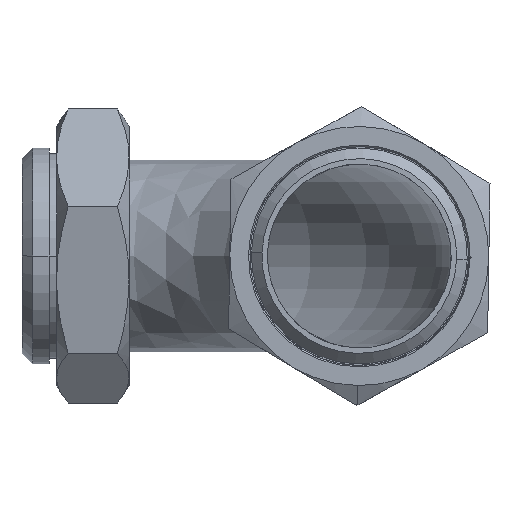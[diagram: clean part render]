
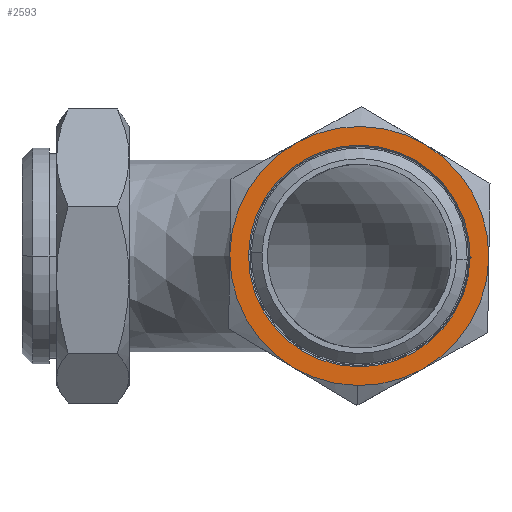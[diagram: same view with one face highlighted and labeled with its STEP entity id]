
A CAD part, front view. The second image highlights one B-rep face of the part: STEP entity #2593.
In plain terms, the highlighted planar face has unit normal (0, -1, 0) as drawn and (0, 0, 1) by its records, which use the part's own axes.
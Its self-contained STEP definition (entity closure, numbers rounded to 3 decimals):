
#24 = EDGE_CURVE ( 'NONE', #5599, #6342, #14220, .T. ) ;
#143 = VERTEX_POINT ( 'NONE', #9170 ) ;
#280 = CARTESIAN_POINT ( 'NONE',  ( 0., 0., 38.354 ) ) ;
#797 = ORIENTED_EDGE ( 'NONE', *, *, #9403, .T. ) ;
#922 = VERTEX_POINT ( 'NONE', #3838 ) ;
#944 = DIRECTION ( 'NONE',  ( 0., 0., -1. ) ) ;
#1153 = EDGE_LOOP ( 'NONE', ( #14002, #8592, #797, #11951, #9208, #5302, #13646 ) ) ;
#1273 = DIRECTION ( 'NONE',  ( 1., 0., 0. ) ) ;
#1310 = VERTEX_POINT ( 'NONE', #14631 ) ;
#1585 = CARTESIAN_POINT ( 'NONE',  ( 0., 0., 38.354 ) ) ;
#1794 = AXIS2_PLACEMENT_3D ( 'NONE', #5739, #10481, #15232 ) ;
#2029 = CIRCLE ( 'NONE', #9471, 68.58 ) ;
#2033 = DIRECTION ( 'NONE',  ( 0., 0., 1. ) ) ;
#2335 = VERTEX_POINT ( 'NONE', #4945 ) ;
#2593 = ADVANCED_FACE ( 'NONE', ( #13344, #6266 ), #5021, .T. ) ;
#3312 = VERTEX_POINT ( 'NONE', #6638 ) ;
#3541 = CARTESIAN_POINT ( 'NONE',  ( -59.392, 34.29, 38.354 ) ) ;
#3700 = AXIS2_PLACEMENT_3D ( 'NONE', #14589, #6112, #3929 ) ;
#3838 = CARTESIAN_POINT ( 'NONE',  ( 59.392, 34.29, 38.354 ) ) ;
#3929 = DIRECTION ( 'NONE',  ( 1., 0., 0. ) ) ;
#3988 = CARTESIAN_POINT ( 'NONE',  ( 58.674, 0., 38.354 ) ) ;
#4595 = DIRECTION ( 'NONE',  ( 1., 0., 0. ) ) ;
#4867 = CIRCLE ( 'NONE', #12807, 68.58 ) ;
#4924 = DIRECTION ( 'NONE',  ( 0., 0., 1. ) ) ;
#4945 = CARTESIAN_POINT ( 'NONE',  ( 0., 68.58, 38.354 ) ) ;
#5021 = PLANE ( 'NONE',  #3700 ) ;
#5302 = ORIENTED_EDGE ( 'NONE', *, *, #9020, .T. ) ;
#5369 = CARTESIAN_POINT ( 'NONE',  ( 0., 0., 38.354 ) ) ;
#5599 = VERTEX_POINT ( 'NONE', #3988 ) ;
#5739 = CARTESIAN_POINT ( 'NONE',  ( 0., 0., 38.354 ) ) ;
#5843 = CARTESIAN_POINT ( 'NONE',  ( 0., -68.58, 38.354 ) ) ;
#6112 = DIRECTION ( 'NONE',  ( 0., 0., 1. ) ) ;
#6266 = FACE_OUTER_BOUND ( 'NONE', #1153, .T. ) ;
#6342 = VERTEX_POINT ( 'NONE', #8135 ) ;
#6475 = ORIENTED_EDGE ( 'NONE', *, *, #10079, .T. ) ;
#6567 = ORIENTED_EDGE ( 'NONE', *, *, #24, .T. ) ;
#6638 = CARTESIAN_POINT ( 'NONE',  ( 59.392, -34.29, 38.354 ) ) ;
#6708 = CARTESIAN_POINT ( 'NONE',  ( 0., 0., 38.354 ) ) ;
#6812 = CIRCLE ( 'NONE', #12770, 68.58 ) ;
#7241 = CARTESIAN_POINT ( 'NONE',  ( 0., 0., 38.354 ) ) ;
#7624 = DIRECTION ( 'NONE',  ( 0., 0., 1. ) ) ;
#7697 = DIRECTION ( 'NONE',  ( 1., 0., 0. ) ) ;
#7796 = DIRECTION ( 'NONE',  ( 0., 0., 1. ) ) ;
#7980 = AXIS2_PLACEMENT_3D ( 'NONE', #12684, #2033, #4595 ) ;
#8086 = AXIS2_PLACEMENT_3D ( 'NONE', #6708, #7796, #11366 ) ;
#8135 = CARTESIAN_POINT ( 'NONE',  ( -58.674, 0., 38.354 ) ) ;
#8374 = VERTEX_POINT ( 'NONE', #5843 ) ;
#8592 = ORIENTED_EDGE ( 'NONE', *, *, #12920, .T. ) ;
#9020 = EDGE_CURVE ( 'NONE', #143, #8374, #13462, .T. ) ;
#9148 = DIRECTION ( 'NONE',  ( 1., 0., 0. ) ) ;
#9170 = CARTESIAN_POINT ( 'NONE',  ( -59.392, -34.29, 38.354 ) ) ;
#9207 = EDGE_CURVE ( 'NONE', #12728, #143, #13220, .T. ) ;
#9208 = ORIENTED_EDGE ( 'NONE', *, *, #9207, .T. ) ;
#9248 = CARTESIAN_POINT ( 'NONE',  ( 0., 0., 38.354 ) ) ;
#9403 = EDGE_CURVE ( 'NONE', #922, #2335, #2029, .T. ) ;
#9437 = DIRECTION ( 'NONE',  ( 0., 0., 1. ) ) ;
#9471 = AXIS2_PLACEMENT_3D ( 'NONE', #5369, #7624, #7697 ) ;
#10079 = EDGE_CURVE ( 'NONE', #6342, #5599, #15188, .T. ) ;
#10135 = EDGE_LOOP ( 'NONE', ( #6567, #6475 ) ) ;
#10244 = DIRECTION ( 'NONE',  ( 0., 0., 1. ) ) ;
#10481 = DIRECTION ( 'NONE',  ( 0., 0., -1. ) ) ;
#10766 = DIRECTION ( 'NONE',  ( 1., 0., 0. ) ) ;
#10811 = DIRECTION ( 'NONE',  ( 1., 0., 0. ) ) ;
#11366 = DIRECTION ( 'NONE',  ( 1., 0., 0. ) ) ;
#11556 = AXIS2_PLACEMENT_3D ( 'NONE', #280, #4924, #1273 ) ;
#11951 = ORIENTED_EDGE ( 'NONE', *, *, #12475, .T. ) ;
#12017 = CARTESIAN_POINT ( 'NONE',  ( 0., 0., 38.354 ) ) ;
#12062 = DIRECTION ( 'NONE',  ( 0., 0., 1. ) ) ;
#12078 = CIRCLE ( 'NONE', #8086, 68.58 ) ;
#12211 = AXIS2_PLACEMENT_3D ( 'NONE', #7241, #12062, #10811 ) ;
#12475 = EDGE_CURVE ( 'NONE', #2335, #12728, #12078, .T. ) ;
#12639 = EDGE_CURVE ( 'NONE', #8374, #3312, #6812, .T. ) ;
#12684 = CARTESIAN_POINT ( 'NONE',  ( 0., 0., 38.354 ) ) ;
#12728 = VERTEX_POINT ( 'NONE', #3541 ) ;
#12770 = AXIS2_PLACEMENT_3D ( 'NONE', #12017, #9437, #10766 ) ;
#12807 = AXIS2_PLACEMENT_3D ( 'NONE', #1585, #10244, #9148 ) ;
#12920 = EDGE_CURVE ( 'NONE', #1310, #922, #14773, .T. ) ;
#13070 = DIRECTION ( 'NONE',  ( 1., 0., 0. ) ) ;
#13220 = CIRCLE ( 'NONE', #12211, 68.58 ) ;
#13344 = FACE_BOUND ( 'NONE', #10135, .T. ) ;
#13462 = CIRCLE ( 'NONE', #7980, 68.58 ) ;
#13486 = AXIS2_PLACEMENT_3D ( 'NONE', #9248, #944, #13070 ) ;
#13515 = EDGE_CURVE ( 'NONE', #3312, #1310, #4867, .T. ) ;
#13646 = ORIENTED_EDGE ( 'NONE', *, *, #12639, .T. ) ;
#14002 = ORIENTED_EDGE ( 'NONE', *, *, #13515, .T. ) ;
#14220 = CIRCLE ( 'NONE', #13486, 58.674 ) ;
#14589 = CARTESIAN_POINT ( 'NONE',  ( 0., 0., 38.354 ) ) ;
#14631 = CARTESIAN_POINT ( 'NONE',  ( 68.58, 0., 38.354 ) ) ;
#14773 = CIRCLE ( 'NONE', #11556, 68.58 ) ;
#15188 = CIRCLE ( 'NONE', #1794, 58.674 ) ;
#15232 = DIRECTION ( 'NONE',  ( 1., 0., 0. ) ) ;
